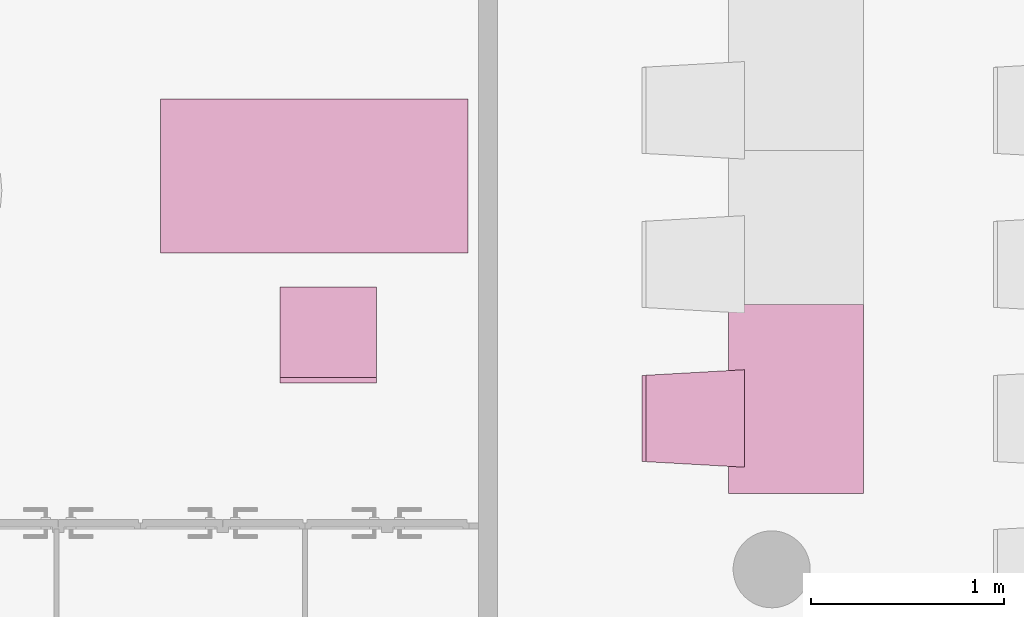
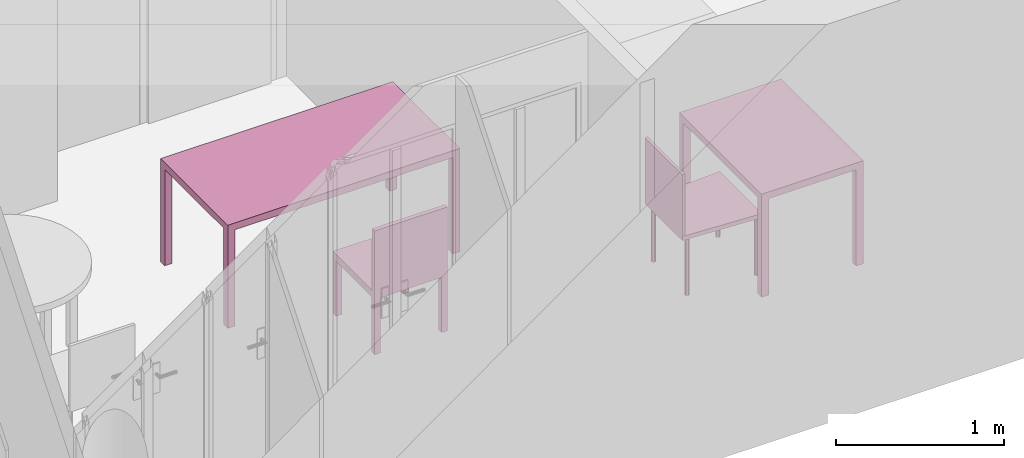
"""IFC4 building model written with IfcOpenShell, lengths in metres."""

from ifc_helpers import new_model, entity, si_unit, converted_unit, derived_unit, frame, origin, place, context, subcontext, project, spatial, faceted_brep, element, save


model = new_model("IFC4")

# Units and contexts
model_context = context("Model", 3, precision=1e-05, world=origin())
body_context = subcontext(model_context, "Body", "Model", "MODEL_VIEW")
ifc_project = project(units=[si_unit("LENGTHUNIT", "METRE"), si_unit("AREAUNIT", "SQUARE_METRE"), si_unit("VOLUMEUNIT", "CUBIC_METRE"), si_unit("MASSUNIT", "GRAM", prefix="KILO"), converted_unit("PLANEANGLEUNIT", "DEGREE", entity("IfcPlaneAngleMeasure", 0.0174532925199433), si_unit("PLANEANGLEUNIT", "RADIAN"), dimensions=[0, 0, 0, 0, 0, 0, 0]), derived_unit("THERMALTRANSMITTANCEUNIT", [(si_unit("POWERUNIT", "WATT"), 1), (si_unit("THERMODYNAMICTEMPERATUREUNIT", "KELVIN"), -1), (si_unit("LENGTHUNIT", "METRE"), -2)]), derived_unit("VOLUMETRICFLOWRATEUNIT", [(si_unit("LENGTHUNIT", "METRE"), 3), (converted_unit("TIMEUNIT", "hour", entity("IfcTimeMeasure", 3600.0), si_unit("TIMEUNIT", "SECOND"), dimensions=[0, 0, 1, 0, 0, 0, 0]), -1), (si_unit("LENGTHUNIT", "METRE"), -1)])], contexts=[model_context])

# Building, storeys
building_placement = place(None, origin())
building = spatial("IfcBuilding", under=ifc_project, at=building_placement, Name="HABITATGE PLURIFAMILIAR", CompositionType="ELEMENT")
storey_1_placement = place(building_placement, frame((0.0, 0.0, 3.35)))
storey_1 = spatial("IfcBuildingStorey", under=building, at=storey_1_placement, Name="PLANTA  ALTELL", CompositionType="ELEMENT", Elevation=3.35)
storey_2_placement = place(storey_1_placement, origin())
storey_2 = spatial("IfcBuildingStorey", under=storey_1, at=storey_2_placement, Name="NOU", CompositionType="PARTIAL")

# Furniture
furniture_1_placement = place(storey_2_placement, frame((407.561552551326, 15.292133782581, 0.05)))
element("IfcFurniture", 1, at=furniture_1_placement, inside=storey_2, Name="Taula 160X80_PA", context=body_context, shape_type="Brep", body=[
    faceted_brep([(1.546945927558, 0.750069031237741, 0.0), (1.596945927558, 0.750069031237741, 0.0), (1.596945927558, 0.800069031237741, 0.0), (1.546945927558, 0.800069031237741, 0.0), (1.546945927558, 0.800069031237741, 0.7), (1.596945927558, 0.800069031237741, 0.7), (1.596945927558, 0.750069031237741, 0.7), (1.546945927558, 0.750069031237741, 0.7)], [[[0, 1, 2, 3]], [[4, 5, 6, 7]], [[3, 4, 7, 0]], [[2, 5, 4, 3]], [[1, 6, 5, 2]], [[0, 7, 6, 1]]], orient=[[False], [False], [False], [False], [False], [False]]),
    faceted_brep([(1.546945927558, 0.0, 0.0), (1.596945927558, 0.0, 0.0), (1.596945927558, 0.05, 0.0), (1.546945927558, 0.05, 0.0), (1.546945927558, 0.05, 0.7), (1.596945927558, 0.05, 0.7), (1.596945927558, 0.0, 0.7), (1.546945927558, 0.0, 0.7)], [[[0, 1, 2, 3]], [[4, 5, 6, 7]], [[3, 4, 7, 0]], [[2, 5, 4, 3]], [[1, 6, 5, 2]], [[0, 7, 6, 1]]], orient=[[False], [False], [False], [False], [False], [False]]),
    faceted_brep([(0.0, 0.0, 0.7), (1.596945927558, 0.0, 0.7), (1.596945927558, 0.800069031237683, 0.7), (0.0, 0.800069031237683, 0.7), (0.0, 0.800069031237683, 0.75), (1.596945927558, 0.800069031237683, 0.75), (1.596945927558, 0.0, 0.75), (0.0, 0.0, 0.75)], [[[0, 1, 2, 3]], [[4, 5, 6, 7]], [[3, 4, 7, 0]], [[2, 5, 4, 3]], [[1, 6, 5, 2]], [[0, 7, 6, 1]]], orient=[[False], [False], [False], [False], [False], [False]]),
    faceted_brep([(0.0, 0.750069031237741, 0.0), (0.05, 0.750069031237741, 0.0), (0.05, 0.800069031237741, 0.0), (0.0, 0.800069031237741, 0.0), (0.0, 0.800069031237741, 0.7), (0.05, 0.800069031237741, 0.7), (0.05, 0.750069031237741, 0.7), (0.0, 0.750069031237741, 0.7)], [[[0, 1, 2, 3]], [[4, 5, 6, 7]], [[3, 4, 7, 0]], [[2, 5, 4, 3]], [[1, 6, 5, 2]], [[0, 7, 6, 1]]], orient=[[False], [False], [False], [False], [False], [False]]),
    faceted_brep([(0.0, 0.0, 0.0), (0.05, 0.0, 0.0), (0.05, 0.05, 0.0), (0.0, 0.05, 0.0), (0.0, 0.05, 0.7), (0.05, 0.05, 0.7), (0.05, 0.0, 0.7), (0.0, 0.0, 0.7)], [[[0, 1, 2, 3]], [[4, 5, 6, 7]], [[3, 4, 7, 0]], [[2, 5, 4, 3]], [[1, 6, 5, 2]], [[0, 7, 6, 1]]], orient=[[False], [False], [False], [False], [False], [False]]),
])
furniture_2_placement = place(storey_2_placement, frame((410.511020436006, 14.0434480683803, 0.0)))
element("IfcFurniture", 2, at=furniture_2_placement, inside=storey_2, Name="Taula 80X70_PA", context=body_context, shape_type="Brep", body=[
    faceted_brep([(0.0, 0.0464285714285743, 0.0), (0.0, 0.0, 0.0), (0.0500000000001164, 0.0, 0.0), (0.0500000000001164, 0.0464285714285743, 0.0), (0.0500000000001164, 0.0464285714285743, 0.7), (0.0500000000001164, 0.0, 0.7), (0.0, 0.0, 0.7), (0.0, 0.0464285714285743, 0.7)], [[[0, 1, 2, 3]], [[4, 5, 6, 7]], [[3, 4, 7, 0]], [[2, 5, 4, 3]], [[1, 6, 5, 2]], [[0, 7, 6, 1]]], orient=[[False], [False], [False], [False], [False], [False]]),
    faceted_brep([(0.0, 0.98, 0.7), (0.0, 0.0, 0.7), (0.700069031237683, 0.0, 0.7), (0.700069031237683, 0.98, 0.7), (0.700069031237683, 0.98, 0.75), (0.700069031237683, 0.0, 0.75), (0.0, 0.0, 0.75), (0.0, 0.98, 0.75)], [[[0, 1, 2, 3]], [[4, 5, 6, 7]], [[3, 4, 7, 0]], [[2, 5, 4, 3]], [[1, 6, 5, 2]], [[0, 7, 6, 1]]], orient=[[False], [False], [False], [False], [False], [False]]),
    faceted_brep([(0.0, 0.980000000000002, 0.0), (0.0, 0.933571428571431, 0.0), (0.05, 0.933571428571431, 0.0), (0.05, 0.980000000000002, 0.0), (0.05, 0.980000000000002, 0.7), (0.05, 0.933571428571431, 0.7), (0.0, 0.933571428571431, 0.7), (0.0, 0.980000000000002, 0.7)], [[[0, 1, 2, 3]], [[4, 5, 6, 7]], [[3, 4, 7, 0]], [[2, 5, 4, 3]], [[1, 6, 5, 2]], [[0, 7, 6, 1]]], orient=[[False], [False], [False], [False], [False], [False]]),
    faceted_brep([(0.650069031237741, 0.98, 0.0), (0.650069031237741, 0.933571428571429, 0.0), (0.700069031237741, 0.933571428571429, 0.0), (0.700069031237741, 0.98, 0.0), (0.700069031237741, 0.98, 0.7), (0.700069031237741, 0.933571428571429, 0.7), (0.650069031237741, 0.933571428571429, 0.7), (0.650069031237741, 0.98, 0.7)], [[[0, 1, 2, 3]], [[4, 5, 6, 7]], [[3, 4, 7, 0]], [[2, 5, 4, 3]], [[1, 6, 5, 2]], [[0, 7, 6, 1]]], orient=[[False], [False], [False], [False], [False], [False]]),
    faceted_brep([(0.650069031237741, 0.0464285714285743, 0.0), (0.650069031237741, 0.0, 0.0), (0.700069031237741, 0.0, 0.0), (0.700069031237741, 0.0464285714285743, 0.0), (0.700069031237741, 0.0464285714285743, 0.7), (0.700069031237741, 0.0, 0.7), (0.650069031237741, 0.0, 0.7), (0.650069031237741, 0.0464285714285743, 0.7)], [[[0, 1, 2, 3]], [[4, 5, 6, 7]], [[3, 4, 7, 0]], [[2, 5, 4, 3]], [[1, 6, 5, 2]], [[0, 7, 6, 1]]], orient=[[False], [False], [False], [False], [False], [False]]),
])
furniture_3_placement = place(storey_2_placement, frame((410.061879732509, 14.1796818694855, 0.0499839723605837)))
element("IfcFurniture", 3, at=furniture_3_placement, inside=storey_2, Name="Cadira confident_PA", context=body_context, shape_type="Brep", body=[
    faceted_brep([(0.507575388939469, 0.0391636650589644, 0.0), (0.504980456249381, 0.0389479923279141, 0.0), (0.502462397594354, 0.0382849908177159, 0.0), (0.50009772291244, 0.0371948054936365, 0.0), (0.497958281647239, 0.0357105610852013, 0.0), (0.496109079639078, 0.0338773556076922, 0.0), (0.494606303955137, 0.0317508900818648, 0.0), (0.493495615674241, 0.0293957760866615, 0.0), (0.492810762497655, 0.0268835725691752, 0.0), (0.492572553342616, 0.0242906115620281, 0.0), (0.492788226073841, 0.0216956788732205, 0.0), (0.493451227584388, 0.019177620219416, 0.0), (0.494541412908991, 0.0168129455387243, 0.0), (0.496025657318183, 0.0146735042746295, 0.0), (0.497858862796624, 0.0128243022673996, 0.0), (0.499985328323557, 0.0113215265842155, 0.0), (0.502340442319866, 0.0102108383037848, 0.0), (0.504852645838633, 0.00952598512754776, 0.0), (0.507445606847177, 0.00928777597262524, 0.0), (0.510040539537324, 0.00950344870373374, 0.0), (0.512558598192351, 0.010166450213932, 0.0), (0.514923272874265, 0.0112566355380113, 0.0), (0.517062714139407, 0.0127408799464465, 0.0), (0.518911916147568, 0.0145740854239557, 0.0), (0.520414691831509, 0.0167005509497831, 0.0), (0.521525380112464, 0.0190556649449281, 0.0), (0.52221023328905, 0.0215678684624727, 0.0), (0.522448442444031, 0.024160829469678, 0.0), (0.522232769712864, 0.0267557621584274, 0.0), (0.521569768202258, 0.0292738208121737, 0.0), (0.520479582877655, 0.0316384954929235, 0.0), (0.518995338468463, 0.0337779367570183, 0.0), (0.517162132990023, 0.0356271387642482, 0.0), (0.515035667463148, 0.0371299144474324, 0.0), (0.51268055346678, 0.038240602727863, 0.0), (0.510168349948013, 0.0389254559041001, 0.0), (0.507575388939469, 0.0391636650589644, 0.448281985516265), (0.510168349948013, 0.0389254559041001, 0.448281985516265), (0.51268055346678, 0.038240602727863, 0.448281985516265), (0.515035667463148, 0.0371299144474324, 0.448281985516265), (0.517162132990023, 0.0356271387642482, 0.448281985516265), (0.518995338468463, 0.0337779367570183, 0.448281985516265), (0.520479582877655, 0.0316384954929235, 0.448281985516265), (0.521569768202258, 0.0292738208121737, 0.448281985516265), (0.522232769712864, 0.0267557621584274, 0.448281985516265), (0.522448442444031, 0.024160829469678, 0.448281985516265), (0.52221023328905, 0.0215678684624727, 0.448281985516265), (0.521525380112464, 0.0190556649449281, 0.448281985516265), (0.520414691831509, 0.0167005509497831, 0.448281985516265), (0.518911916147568, 0.0145740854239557, 0.448281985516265), (0.517062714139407, 0.0127408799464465, 0.448281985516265), (0.514923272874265, 0.0112566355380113, 0.448281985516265), (0.512558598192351, 0.010166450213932, 0.448281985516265), (0.510040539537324, 0.00950344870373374, 0.448281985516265), (0.507445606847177, 0.00928777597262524, 0.448281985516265), (0.504852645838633, 0.00952598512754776, 0.448281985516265), (0.502340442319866, 0.0102108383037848, 0.448281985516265), (0.499985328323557, 0.0113215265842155, 0.448281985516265), (0.497858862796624, 0.0128243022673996, 0.448281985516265), (0.496025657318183, 0.0146735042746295, 0.448281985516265), (0.494541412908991, 0.0168129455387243, 0.448281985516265), (0.493451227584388, 0.019177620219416, 0.448281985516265), (0.492788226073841, 0.0216956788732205, 0.448281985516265), (0.492572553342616, 0.0242906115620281, 0.448281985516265), (0.492810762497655, 0.0268835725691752, 0.448281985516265), (0.493495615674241, 0.0293957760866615, 0.448281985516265), (0.494606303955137, 0.0317508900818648, 0.448281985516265), (0.496109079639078, 0.0338773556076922, 0.448281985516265), (0.497958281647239, 0.0357105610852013, 0.448281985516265), (0.50009772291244, 0.0371948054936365, 0.448281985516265), (0.502462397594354, 0.0382849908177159, 0.448281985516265), (0.504980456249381, 0.0389479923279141, 0.448281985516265)], [[[0, 1, 2, 3, 4, 5, 6, 7, 8, 9, 10, 11, 12, 13, 14, 15, 16, 17, 18, 19, 20, 21, 22, 23, 24, 25, 26, 27, 28, 29, 30, 31, 32, 33, 34, 35]], [[36, 37, 38, 39, 40, 41, 42, 43, 44, 45, 46, 47, 48, 49, 50, 51, 52, 53, 54, 55, 56, 57, 58, 59, 60, 61, 62, 63, 64, 65, 66, 67, 68, 69, 70, 71]], [[1, 0, 36, 71]], [[2, 1, 71, 70]], [[3, 2, 70, 69]], [[4, 3, 69, 68]], [[5, 4, 68, 67]], [[6, 5, 67, 66]], [[7, 6, 66, 65]], [[8, 7, 65, 64]], [[9, 8, 64, 63]], [[10, 9, 63, 62]], [[11, 10, 62, 61]], [[12, 11, 61, 60]], [[13, 12, 60, 59]], [[14, 13, 59, 58]], [[15, 14, 58, 57]], [[16, 15, 57, 56]], [[17, 16, 56, 55]], [[18, 17, 55, 54]], [[19, 18, 54, 53]], [[20, 19, 53, 52]], [[21, 20, 52, 51]], [[22, 21, 51, 50]], [[23, 22, 50, 49]], [[24, 23, 49, 48]], [[25, 24, 48, 47]], [[26, 25, 47, 46]], [[27, 26, 46, 45]], [[28, 27, 45, 44]], [[29, 28, 44, 43]], [[30, 29, 43, 42]], [[31, 30, 42, 41]], [[32, 31, 41, 40]], [[33, 32, 40, 39]], [[34, 33, 39, 38]], [[35, 34, 38, 37]], [[0, 35, 37, 36]]], orient=[[False], [False], [False], [False], [False], [False], [False], [False], [False], [False], [False], [False], [False], [False], [False], [False], [False], [False], [False], [False], [False], [False], [False], [False], [False], [False], [False], [False], [False], [False], [False], [False], [False], [False], [False], [False], [False], [False]]),
    faceted_brep([(0.0451683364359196, 0.0668016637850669, 0.0), (0.0425734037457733, 0.0665859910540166, 0.0), (0.0400553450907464, 0.065922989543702, 0.0), (0.0376906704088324, 0.0648328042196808, 0.0), (0.0355512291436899, 0.0633485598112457, 0.0), (0.0337020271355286, 0.0615153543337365, 0.0), (0.0321992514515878, 0.0593888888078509, 0.0), (0.0310885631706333, 0.057033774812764, 0.0), (0.0304037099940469, 0.0545215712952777, 0.0), (0.030165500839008, 0.0519286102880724, 0.0), (0.0303811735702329, 0.0493336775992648, 0.0), (0.0310441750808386, 0.0468156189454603, 0.0), (0.0321343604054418, 0.0444509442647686, 0.0), (0.0336186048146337, 0.0423115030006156, 0.0), (0.0354518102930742, 0.0404623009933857, 0.0), (0.0375782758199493, 0.0389595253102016, 0.0), (0.0399333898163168, 0.0378488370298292, 0.0), (0.0424455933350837, 0.0371639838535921, 0.0), (0.0450385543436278, 0.0369257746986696, 0.0), (0.0476334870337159, 0.0371414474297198, 0.0), (0.0501515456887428, 0.0378044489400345, 0.0), (0.0525162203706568, 0.0388946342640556, 0.0), (0.0546556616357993, 0.0403788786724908, 0.0), (0.0565048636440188, 0.0422120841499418, 0.0), (0.0580076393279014, 0.0443385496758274, 0.0), (0.0591183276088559, 0.0466936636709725, 0.0), (0.0598031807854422, 0.0492058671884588, 0.0), (0.0600413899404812, 0.0517988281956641, 0.0), (0.0598257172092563, 0.0543937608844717, 0.0), (0.0591627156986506, 0.0569118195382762, 0.0), (0.0580725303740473, 0.0592764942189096, 0.0), (0.0565882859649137, 0.0614159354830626, 0.0), (0.0547550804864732, 0.0632651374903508, 0.0), (0.0526286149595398, 0.0647679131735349, 0.0), (0.0502735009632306, 0.0658786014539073, 0.0), (0.0477612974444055, 0.0665634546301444, 0.0), (0.0451683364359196, 0.0668016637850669, 0.448281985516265), (0.0477612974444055, 0.0665634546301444, 0.448281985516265), (0.0502735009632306, 0.0658786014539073, 0.448281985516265), (0.0526286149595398, 0.0647679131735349, 0.448281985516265), (0.0547550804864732, 0.0632651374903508, 0.448281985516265), (0.0565882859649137, 0.0614159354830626, 0.448281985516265), (0.0580725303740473, 0.0592764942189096, 0.448281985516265), (0.0591627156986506, 0.0569118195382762, 0.448281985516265), (0.0598257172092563, 0.0543937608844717, 0.448281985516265), (0.0600413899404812, 0.0517988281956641, 0.448281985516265), (0.0598031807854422, 0.0492058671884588, 0.448281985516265), (0.0591183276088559, 0.0466936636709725, 0.448281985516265), (0.0580076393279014, 0.0443385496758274, 0.448281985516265), (0.0565048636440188, 0.0422120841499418, 0.448281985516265), (0.0546556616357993, 0.0403788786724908, 0.448281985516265), (0.0525162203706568, 0.0388946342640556, 0.448281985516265), (0.0501515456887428, 0.0378044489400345, 0.448281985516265), (0.0476334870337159, 0.0371414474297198, 0.448281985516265), (0.0450385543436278, 0.0369257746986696, 0.448281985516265), (0.0424455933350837, 0.0371639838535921, 0.448281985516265), (0.0399333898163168, 0.0378488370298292, 0.448281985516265), (0.0375782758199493, 0.0389595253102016, 0.448281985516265), (0.0354518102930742, 0.0404623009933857, 0.448281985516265), (0.0336186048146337, 0.0423115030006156, 0.448281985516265), (0.0321343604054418, 0.0444509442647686, 0.448281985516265), (0.0310441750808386, 0.0468156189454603, 0.448281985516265), (0.0303811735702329, 0.0493336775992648, 0.448281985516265), (0.030165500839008, 0.0519286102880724, 0.448281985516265), (0.0304037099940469, 0.0545215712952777, 0.448281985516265), (0.0310885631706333, 0.057033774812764, 0.448281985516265), (0.0321992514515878, 0.0593888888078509, 0.448281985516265), (0.0337020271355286, 0.0615153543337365, 0.448281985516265), (0.0355512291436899, 0.0633485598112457, 0.448281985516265), (0.0376906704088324, 0.0648328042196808, 0.448281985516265), (0.0400553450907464, 0.065922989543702, 0.448281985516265), (0.0425734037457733, 0.0665859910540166, 0.448281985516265)], [[[0, 1, 2, 3, 4, 5, 6, 7, 8, 9, 10, 11, 12, 13, 14, 15, 16, 17, 18, 19, 20, 21, 22, 23, 24, 25, 26, 27, 28, 29, 30, 31, 32, 33, 34, 35]], [[36, 37, 38, 39, 40, 41, 42, 43, 44, 45, 46, 47, 48, 49, 50, 51, 52, 53, 54, 55, 56, 57, 58, 59, 60, 61, 62, 63, 64, 65, 66, 67, 68, 69, 70, 71]], [[1, 0, 36, 71]], [[2, 1, 71, 70]], [[3, 2, 70, 69]], [[4, 3, 69, 68]], [[5, 4, 68, 67]], [[6, 5, 67, 66]], [[7, 6, 66, 65]], [[8, 7, 65, 64]], [[9, 8, 64, 63]], [[10, 9, 63, 62]], [[11, 10, 62, 61]], [[12, 11, 61, 60]], [[13, 12, 60, 59]], [[14, 13, 59, 58]], [[15, 14, 58, 57]], [[16, 15, 57, 56]], [[17, 16, 56, 55]], [[18, 17, 55, 54]], [[19, 18, 54, 53]], [[20, 19, 53, 52]], [[21, 20, 52, 51]], [[22, 21, 51, 50]], [[23, 22, 50, 49]], [[24, 23, 49, 48]], [[25, 24, 48, 47]], [[26, 25, 47, 46]], [[27, 26, 46, 45]], [[28, 27, 45, 44]], [[29, 28, 44, 43]], [[30, 29, 43, 42]], [[31, 30, 42, 41]], [[32, 31, 41, 40]], [[33, 32, 40, 39]], [[34, 33, 39, 38]], [[35, 34, 38, 37]], [[0, 35, 37, 36]]], orient=[[False], [False], [False], [False], [False], [False], [False], [False], [False], [False], [False], [False], [False], [False], [False], [False], [False], [False], [False], [False], [False], [False], [False], [False], [False], [False], [False], [False], [False], [False], [False], [False], [False], [False], [False], [False], [False], [False]]),
    faceted_brep([(0.50757538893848, 0.499163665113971, 0.0), (0.504980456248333, 0.49894799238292, 0.0), (0.502462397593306, 0.498284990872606, 0.0), (0.500097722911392, 0.497194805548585, 0.0), (0.49795828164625, 0.495710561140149, 0.0), (0.496109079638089, 0.493877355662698, 0.0), (0.494606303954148, 0.491750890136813, 0.0), (0.493495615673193, 0.489395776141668, 0.0), (0.492810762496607, 0.486883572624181, 0.0), (0.492572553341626, 0.484290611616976, 0.0), (0.492788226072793, 0.481695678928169, 0.0), (0.493451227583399, 0.479177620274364, 0.0), (0.494541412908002, 0.476812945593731, 0.0), (0.496025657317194, 0.474673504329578, 0.0), (0.497858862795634, 0.472824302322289, 0.0), (0.499985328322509, 0.471321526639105, 0.0), (0.502340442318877, 0.470210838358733, 0.0), (0.504852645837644, 0.469525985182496, 0.0), (0.507445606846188, 0.469287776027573, 0.0), (0.510040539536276, 0.469503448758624, 0.0), (0.512558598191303, 0.470166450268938, 0.0), (0.514923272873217, 0.471256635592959, 0.0), (0.517062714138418, 0.472740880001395, 0.0), (0.518911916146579, 0.474574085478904, 0.0), (0.52041469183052, 0.476700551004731, 0.0), (0.521525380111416, 0.479055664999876, 0.0), (0.522210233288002, 0.481567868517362, 0.0), (0.522448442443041, 0.484160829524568, 0.0), (0.522232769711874, 0.486755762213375, 0.0), (0.521569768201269, 0.48927382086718, 0.0), (0.520479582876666, 0.491638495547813, 0.0), (0.518995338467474, 0.493777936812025, 0.0), (0.517162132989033, 0.495627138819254, 0.0), (0.515035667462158, 0.497129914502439, 0.0), (0.512680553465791, 0.498240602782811, 0.0), (0.510168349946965, 0.498925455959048, 0.0), (0.50757538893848, 0.499163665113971, 0.448281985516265), (0.510168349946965, 0.498925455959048, 0.448281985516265), (0.512680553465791, 0.498240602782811, 0.448281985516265), (0.515035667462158, 0.497129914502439, 0.448281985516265), (0.517162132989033, 0.495627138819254, 0.448281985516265), (0.518995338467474, 0.493777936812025, 0.448281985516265), (0.520479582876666, 0.491638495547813, 0.448281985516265), (0.521569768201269, 0.48927382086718, 0.448281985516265), (0.522232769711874, 0.486755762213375, 0.448281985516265), (0.522448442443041, 0.484160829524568, 0.448281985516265), (0.522210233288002, 0.481567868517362, 0.448281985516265), (0.521525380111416, 0.479055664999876, 0.448281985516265), (0.52041469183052, 0.476700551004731, 0.448281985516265), (0.518911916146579, 0.474574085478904, 0.448281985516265), (0.517062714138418, 0.472740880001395, 0.448281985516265), (0.514923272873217, 0.471256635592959, 0.448281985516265), (0.512558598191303, 0.470166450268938, 0.448281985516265), (0.510040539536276, 0.469503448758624, 0.448281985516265), (0.507445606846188, 0.469287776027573, 0.448281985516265), (0.504852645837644, 0.469525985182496, 0.448281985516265), (0.502340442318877, 0.470210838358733, 0.448281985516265), (0.499985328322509, 0.471321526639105, 0.448281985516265), (0.497858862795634, 0.472824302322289, 0.448281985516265), (0.496025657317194, 0.474673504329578, 0.448281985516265), (0.494541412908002, 0.476812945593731, 0.448281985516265), (0.493451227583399, 0.479177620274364, 0.448281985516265), (0.492788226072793, 0.481695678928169, 0.448281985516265), (0.492572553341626, 0.484290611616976, 0.448281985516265), (0.492810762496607, 0.486883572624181, 0.448281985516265), (0.493495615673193, 0.489395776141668, 0.448281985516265), (0.494606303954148, 0.491750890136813, 0.448281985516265), (0.496109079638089, 0.493877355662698, 0.448281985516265), (0.49795828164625, 0.495710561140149, 0.448281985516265), (0.500097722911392, 0.497194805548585, 0.448281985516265), (0.502462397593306, 0.498284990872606, 0.448281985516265), (0.504980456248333, 0.49894799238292, 0.448281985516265)], [[[0, 1, 2, 3, 4, 5, 6, 7, 8, 9, 10, 11, 12, 13, 14, 15, 16, 17, 18, 19, 20, 21, 22, 23, 24, 25, 26, 27, 28, 29, 30, 31, 32, 33, 34, 35]], [[36, 37, 38, 39, 40, 41, 42, 43, 44, 45, 46, 47, 48, 49, 50, 51, 52, 53, 54, 55, 56, 57, 58, 59, 60, 61, 62, 63, 64, 65, 66, 67, 68, 69, 70, 71]], [[1, 0, 36, 71]], [[2, 1, 71, 70]], [[3, 2, 70, 69]], [[4, 3, 69, 68]], [[5, 4, 68, 67]], [[6, 5, 67, 66]], [[7, 6, 66, 65]], [[8, 7, 65, 64]], [[9, 8, 64, 63]], [[10, 9, 63, 62]], [[11, 10, 62, 61]], [[12, 11, 61, 60]], [[13, 12, 60, 59]], [[14, 13, 59, 58]], [[15, 14, 58, 57]], [[16, 15, 57, 56]], [[17, 16, 56, 55]], [[18, 17, 55, 54]], [[19, 18, 54, 53]], [[20, 19, 53, 52]], [[21, 20, 52, 51]], [[22, 21, 51, 50]], [[23, 22, 50, 49]], [[24, 23, 49, 48]], [[25, 24, 48, 47]], [[26, 25, 47, 46]], [[27, 26, 46, 45]], [[28, 27, 45, 44]], [[29, 28, 44, 43]], [[30, 29, 43, 42]], [[31, 30, 42, 41]], [[32, 31, 41, 40]], [[33, 32, 40, 39]], [[34, 33, 39, 38]], [[35, 34, 38, 37]], [[0, 35, 37, 36]]], orient=[[False], [False], [False], [False], [False], [False], [False], [False], [False], [False], [False], [False], [False], [False], [False], [False], [False], [False], [False], [False], [False], [False], [False], [False], [False], [False], [False], [False], [False], [False], [False], [False], [False], [False], [False], [False], [False], [False]]),
    faceted_brep([(0.0451683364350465, 0.466801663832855, 0.0), (0.0425734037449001, 0.466585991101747, 0.0), (0.0400553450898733, 0.46592298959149, 0.0), (0.0376906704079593, 0.464832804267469, 0.0), (0.0355512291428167, 0.463348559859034, 0.0), (0.0337020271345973, 0.461515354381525, 0.0), (0.0321992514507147, 0.459388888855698, 0.0), (0.0310885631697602, 0.457033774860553, 0.0), (0.0304037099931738, 0.454521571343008, 0.0), (0.0301655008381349, 0.451928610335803, 0.0), (0.0303811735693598, 0.449333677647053, 0.0), (0.0310441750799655, 0.446815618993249, 0.0), (0.0321343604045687, 0.444450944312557, 0.0), (0.0336186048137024, 0.442311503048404, 0.0), (0.0354518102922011, 0.440462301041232, 0.0), (0.0375782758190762, 0.43895952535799, 0.0), (0.0399333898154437, 0.437848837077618, 0.0), (0.0424455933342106, 0.437163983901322, 0.0), (0.0450385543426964, 0.436925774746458, 0.0), (0.0476334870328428, 0.437141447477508, 0.0), (0.0501515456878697, 0.437804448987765, 0.0), (0.0525162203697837, 0.438894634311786, 0.0), (0.0546556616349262, 0.440378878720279, 0.0), (0.0565048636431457, 0.44221208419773, 0.0), (0.0580076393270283, 0.444338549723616, 0.0), (0.0591183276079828, 0.446693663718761, 0.0), (0.0598031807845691, 0.449205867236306, 0.0), (0.0600413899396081, 0.451798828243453, 0.0), (0.0598257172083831, 0.45439376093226, 0.0), (0.0591627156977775, 0.456911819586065, 0.0), (0.0580725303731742, 0.459276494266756, 0.0), (0.0565882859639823, 0.461415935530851, 0.0), (0.0547550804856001, 0.463265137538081, 0.0), (0.0526286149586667, 0.464767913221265, 0.0), (0.0502735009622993, 0.465878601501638, 0.0), (0.0477612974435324, 0.466563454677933, 0.0), (0.0451683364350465, 0.466801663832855, 0.448281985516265), (0.0477612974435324, 0.466563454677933, 0.448281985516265), (0.0502735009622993, 0.465878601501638, 0.448281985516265), (0.0526286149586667, 0.464767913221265, 0.448281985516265), (0.0547550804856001, 0.463265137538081, 0.448281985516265), (0.0565882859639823, 0.461415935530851, 0.448281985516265), (0.0580725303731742, 0.459276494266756, 0.448281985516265), (0.0591627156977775, 0.456911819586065, 0.448281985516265), (0.0598257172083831, 0.45439376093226, 0.448281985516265), (0.0600413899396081, 0.451798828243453, 0.448281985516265), (0.0598031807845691, 0.449205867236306, 0.448281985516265), (0.0591183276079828, 0.446693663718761, 0.448281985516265), (0.0580076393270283, 0.444338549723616, 0.448281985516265), (0.0565048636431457, 0.44221208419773, 0.448281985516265), (0.0546556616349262, 0.440378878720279, 0.448281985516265), (0.0525162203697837, 0.438894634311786, 0.448281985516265), (0.0501515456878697, 0.437804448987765, 0.448281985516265), (0.0476334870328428, 0.437141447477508, 0.448281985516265), (0.0450385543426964, 0.436925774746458, 0.448281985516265), (0.0424455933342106, 0.437163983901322, 0.448281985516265), (0.0399333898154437, 0.437848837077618, 0.448281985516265), (0.0375782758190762, 0.43895952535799, 0.448281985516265), (0.0354518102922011, 0.440462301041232, 0.448281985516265), (0.0336186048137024, 0.442311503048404, 0.448281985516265), (0.0321343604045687, 0.444450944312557, 0.448281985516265), (0.0310441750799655, 0.446815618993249, 0.448281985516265), (0.0303811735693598, 0.449333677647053, 0.448281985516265), (0.0301655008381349, 0.451928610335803, 0.448281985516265), (0.0304037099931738, 0.454521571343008, 0.448281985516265), (0.0310885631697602, 0.457033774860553, 0.448281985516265), (0.0321992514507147, 0.459388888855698, 0.448281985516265), (0.0337020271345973, 0.461515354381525, 0.448281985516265), (0.0355512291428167, 0.463348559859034, 0.448281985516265), (0.0376906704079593, 0.464832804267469, 0.448281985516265), (0.0400553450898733, 0.46592298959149, 0.448281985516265), (0.0425734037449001, 0.466585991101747, 0.448281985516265)], [[[0, 1, 2, 3, 4, 5, 6, 7, 8, 9, 10, 11, 12, 13, 14, 15, 16, 17, 18, 19, 20, 21, 22, 23, 24, 25, 26, 27, 28, 29, 30, 31, 32, 33, 34, 35]], [[36, 37, 38, 39, 40, 41, 42, 43, 44, 45, 46, 47, 48, 49, 50, 51, 52, 53, 54, 55, 56, 57, 58, 59, 60, 61, 62, 63, 64, 65, 66, 67, 68, 69, 70, 71]], [[1, 0, 36, 71]], [[2, 1, 71, 70]], [[3, 2, 70, 69]], [[4, 3, 69, 68]], [[5, 4, 68, 67]], [[6, 5, 67, 66]], [[7, 6, 66, 65]], [[8, 7, 65, 64]], [[9, 8, 64, 63]], [[10, 9, 63, 62]], [[11, 10, 62, 61]], [[12, 11, 61, 60]], [[13, 12, 60, 59]], [[14, 13, 59, 58]], [[15, 14, 58, 57]], [[16, 15, 57, 56]], [[17, 16, 56, 55]], [[18, 17, 55, 54]], [[19, 18, 54, 53]], [[20, 19, 53, 52]], [[21, 20, 52, 51]], [[22, 21, 51, 50]], [[23, 22, 50, 49]], [[24, 23, 49, 48]], [[25, 24, 48, 47]], [[26, 25, 47, 46]], [[27, 26, 46, 45]], [[28, 27, 45, 44]], [[29, 28, 44, 43]], [[30, 29, 43, 42]], [[31, 30, 42, 41]], [[32, 31, 41, 40]], [[33, 32, 40, 39]], [[34, 33, 39, 38]], [[35, 34, 38, 37]], [[0, 35, 37, 36]]], orient=[[False], [False], [False], [False], [False], [False], [False], [False], [False], [False], [False], [False], [False], [False], [False], [False], [False], [False], [False], [False], [False], [False], [False], [False], [False], [False], [False], [False], [False], [False], [False], [False], [False], [False], [False], [False], [False], [False]]),
    faceted_brep([(0.0, 0.476514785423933, 0.418281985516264), (0.0, 0.0300000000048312, 0.418281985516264), (0.532607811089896, 0.0, 0.418281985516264), (0.53260781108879, 0.506514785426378, 0.418281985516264), (0.53260781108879, 0.506514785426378, 0.448281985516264), (0.532607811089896, 0.0, 0.448281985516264), (0.0, 0.0300000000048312, 0.448281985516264), (0.0, 0.476514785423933, 0.448281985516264)], [[[0, 1, 2, 3]], [[4, 5, 6, 7]], [[3, 4, 7, 0]], [[2, 5, 4, 3]], [[1, 6, 5, 2]], [[0, 7, 6, 1]]], orient=[[False], [False], [False], [False], [False], [False]]),
    faceted_brep([(0.0200000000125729, 0.476514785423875, 0.448281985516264), (0.0, 0.476514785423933, 0.448281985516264), (0.0, 0.0300000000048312, 0.448281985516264), (0.0200000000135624, 0.0300000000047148, 0.448281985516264), (0.0200000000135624, 0.0300000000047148, 0.898281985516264), (0.0, 0.0300000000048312, 0.898281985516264), (0.0, 0.476514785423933, 0.898281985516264), (0.0200000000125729, 0.476514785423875, 0.898281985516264)], [[[0, 1, 2, 3]], [[4, 5, 6, 7]], [[3, 4, 7, 0]], [[2, 5, 4, 3]], [[1, 6, 5, 2]], [[0, 7, 6, 1]]], orient=[[False], [False], [False], [False], [False], [False]]),
])
furniture_4_placement = place(storey_2_placement, frame((408.181913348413, 14.6162711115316, 0.0512820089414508)))
element("IfcFurniture", 4, at=furniture_4_placement, inside=storey_2, Name="Cadira d'Oficina_PA", context=body_context, shape_type="Brep", body=[
    faceted_brep([(0.0, 0.5, 0.4), (0.0, 0.0, 0.4), (0.5, 0.0, 0.4), (0.5, 0.500000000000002, 0.4), (0.0, 0.0, 0.45), (0.0, 0.5, 0.45), (0.5, 0.500000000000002, 0.45), (0.5, 0.0, 0.45)], [[[0, 1, 2, 3]], [[4, 5, 6, 7]], [[1, 0, 5, 4]], [[2, 1, 4, 7]], [[3, 2, 7, 6]], [[0, 3, 6, 5]]], orient=[[False], [False], [False], [False], [False], [False]]),
    faceted_brep([(0.5, 0.0400000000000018, 0.0), (0.46, 0.0400000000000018, 0.0), (0.46, 0.0, 0.0), (0.5, 0.0, 0.0), (0.46, 0.0400000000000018, 0.4), (0.5, 0.0400000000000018, 0.4), (0.5, 0.0, 0.4), (0.46, 0.0, 0.4)], [[[0, 1, 2, 3]], [[4, 5, 6, 7]], [[1, 0, 5, 4]], [[2, 1, 4, 7]], [[3, 2, 7, 6]], [[0, 3, 6, 5]]], orient=[[False], [False], [False], [False], [False], [False]]),
    faceted_brep([(0.5, 0.500000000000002, 0.0), (0.46, 0.500000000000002, 0.0), (0.46, 0.460000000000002, 0.0), (0.5, 0.460000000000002, 0.0), (0.46, 0.500000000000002, 0.4), (0.5, 0.500000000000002, 0.4), (0.5, 0.460000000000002, 0.4), (0.46, 0.460000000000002, 0.4)], [[[0, 1, 2, 3]], [[4, 5, 6, 7]], [[1, 0, 5, 4]], [[2, 1, 4, 7]], [[3, 2, 7, 6]], [[0, 3, 6, 5]]], orient=[[False], [False], [False], [False], [False], [False]]),
    faceted_brep([(0.04, 0.04, 0.0), (0.0, 0.04, 0.0), (0.0, 0.0, 0.0), (0.04, 0.0, 0.0), (0.0, 0.04, 0.4), (0.04, 0.04, 0.4), (0.04, 0.0, 0.4), (0.0, 0.0, 0.4)], [[[0, 1, 2, 3]], [[4, 5, 6, 7]], [[1, 0, 5, 4]], [[2, 1, 4, 7]], [[3, 2, 7, 6]], [[0, 3, 6, 5]]], orient=[[False], [False], [False], [False], [False], [False]]),
    faceted_brep([(0.04, 0.5, 0.0), (0.0, 0.5, 0.0), (0.0, 0.46, 0.0), (0.04, 0.46, 0.0), (0.0, 0.5, 0.4), (0.04, 0.5, 0.4), (0.04, 0.46, 0.4), (0.0, 0.46, 0.4)], [[[0, 1, 2, 3]], [[4, 5, 6, 7]], [[1, 0, 5, 4]], [[2, 1, 4, 7]], [[3, 2, 7, 6]], [[0, 3, 6, 5]]], orient=[[False], [False], [False], [False], [False], [False]]),
    faceted_brep([(0.5, 0.0300000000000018, 0.45), (0.0, 0.03, 0.45), (0.0, 0.0, 0.45), (0.5, 0.0, 0.45), (0.0, 0.03, 0.9), (0.5, 0.0300000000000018, 0.9), (0.5, 0.0, 0.9), (0.0, 0.0, 0.9)], [[[0, 1, 2, 3]], [[4, 5, 6, 7]], [[1, 0, 5, 4]], [[2, 1, 4, 7]], [[3, 2, 7, 6]], [[0, 3, 6, 5]]], orient=[[False], [False], [False], [False], [False], [False]]),
])

save(model, "model.ifc")
